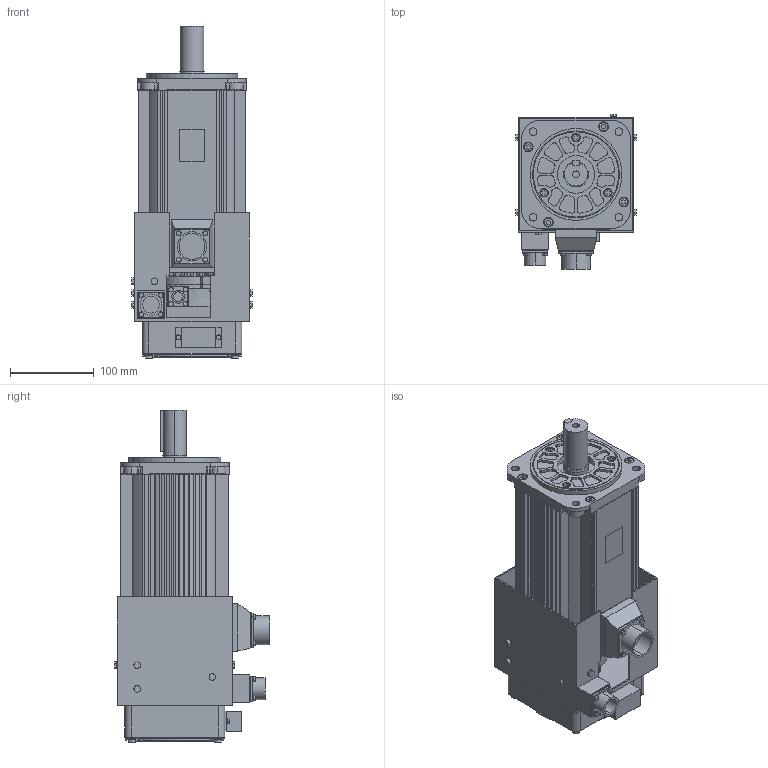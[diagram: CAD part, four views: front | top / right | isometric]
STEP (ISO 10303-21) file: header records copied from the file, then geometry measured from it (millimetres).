
FILE_DESCRIPTION (( 'STEP AP203' ), '1' );
FILE_NAME ('sgmsv_70__a61.STEP', '2009-12-04T02:35:20', ( '匠エンジニアリング山之内' ), ( 'TAKUMI-Engniaring' ), 'SwSTEP 2.0', 'SolidWorks 2006303', '' );
FILE_SCHEMA (( 'CONFIG_CONTROL_DESIGN' ));
Length unit declared in the file: millimetre
Products named in the file (4): sgmsv_70__a61_fan; sgmsv_70__a61; sgmsv_70__a61_base; sgmsv_70__a61_key
Assembly tree (3 placements, depth 2):
  sgmsv_70__a61
    sgmsv_70__a61_fan
    sgmsv_70__a61_base
    sgmsv_70__a61_key
Bounding box: 144 x 185.25 x 397.3 mm (x, y, z)
Volume: 4348900.9 mm3; surface area: 466036 mm2
Topology: 3 solids, 3 shells, 1472 faces, 4055 edges, 2554 vertices
Faces by surface type: plane 1043, cylinder 424, cone 5
Entity records: 47368 total; most frequent: DIRECTION 8359, CARTESIAN_POINT 8129, ORIENTED_EDGE 8110, EDGE_CURVE 4055, AXIS2_PLACEMENT_3D 2829, VECTOR 2701, LINE 2701, VERTEX_POINT 2554
